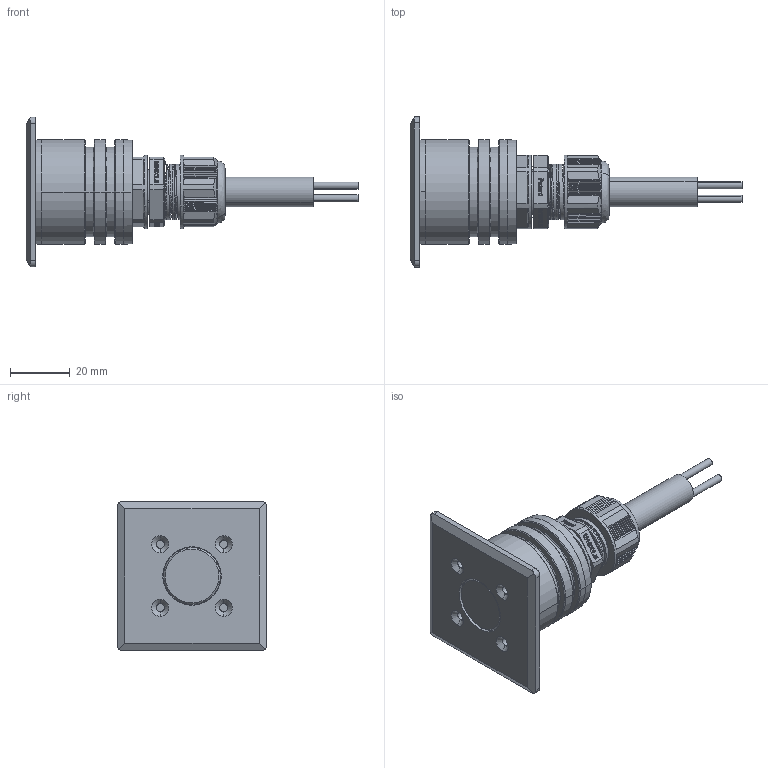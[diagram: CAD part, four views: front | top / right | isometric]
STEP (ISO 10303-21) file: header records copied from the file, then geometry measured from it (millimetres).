
FILE_DESCRIPTION (( 'STEP AP203' ), '1' );
FILE_NAME ('GROUND MINI SQ.STEP', '2023-04-03T09:40:11', ( '' ), ( '' ), 'SwSTEP 2.0', 'SolidWorks 2017', '' );
FILE_SCHEMA (( 'CONFIG_CONTROL_DESIGN' ));
Length unit declared in the file: millimetre
Products named in the file (1): GROUND MINI SQ
Bounding box: 110.83 x 50 x 50 mm (x, y, z)
Surface area: 26623.9 mm2 (no closed solid volume)
Topology: 0 solids, 13 shells, 776 faces, 2009 edges, 1319 vertices
Faces by surface type: plane 392, bspline 162, cylinder 139, cone 75, torus 8
Full cylindrical faces by diameter (mm): 16.6 x2
Entity records: 32254 total; most frequent: CARTESIAN_POINT 14808, ORIENTED_EDGE 3969, DIRECTION 2905, EDGE_CURVE 1992, VERTEX_POINT 1316, AXIS2_PLACEMENT_3D 973, VECTOR 959, LINE 959
